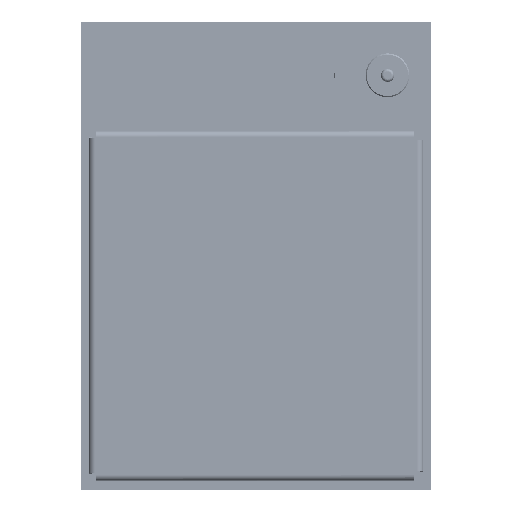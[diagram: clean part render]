
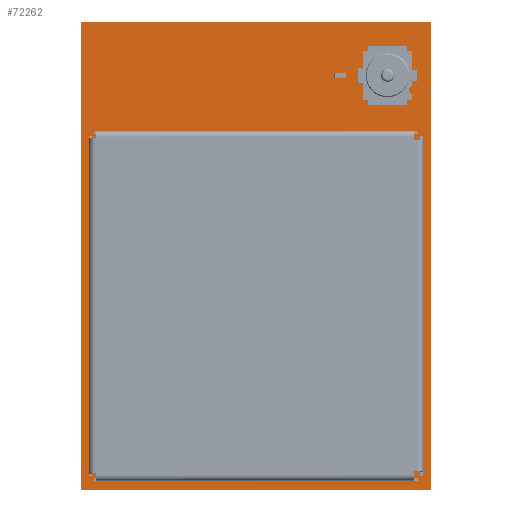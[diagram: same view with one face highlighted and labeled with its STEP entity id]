
A CAD part, top view. The second image highlights one B-rep face of the part: STEP entity #72262.
In plain terms, the highlighted planar face has unit normal (0, 0, 1).
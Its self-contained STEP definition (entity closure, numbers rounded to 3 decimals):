
#1716 = EDGE_CURVE ( 'NONE', #182502, #265360, #231731, .T. ) ;
#6019 = EDGE_CURVE ( 'NONE', #265360, #503978, #92823, .T. ) ;
#26682 = EDGE_CURVE ( 'NONE', #320127, #182502, #164293, .T. ) ;
#67311 = CARTESIAN_POINT ( 'NONE',  ( -6., 8., 0. ) ) ;
#72262 = ADVANCED_FACE ( 'NONE', ( #401343 ), #236676, .F. ) ;
#85750 = VECTOR ( 'NONE', #232952, 1000. ) ;
#86218 = ORIENTED_EDGE ( 'NONE', *, *, #6019, .F. ) ;
#92823 = LINE ( 'NONE', #252175, #248821 ) ;
#93017 = CARTESIAN_POINT ( 'NONE',  ( -6., 8., 0. ) ) ;
#99158 = ORIENTED_EDGE ( 'NONE', *, *, #182029, .F. ) ;
#155210 = AXIS2_PLACEMENT_3D ( 'NONE', #205197, #215448, #207726 ) ;
#164293 = LINE ( 'NONE', #198059, #454511 ) ;
#171808 = ORIENTED_EDGE ( 'NONE', *, *, #1716, .F. ) ;
#182029 = EDGE_CURVE ( 'NONE', #503978, #320127, #512741, .T. ) ;
#182502 = VERTEX_POINT ( 'NONE', #93017 ) ;
#198059 = CARTESIAN_POINT ( 'NONE',  ( -6., -8., 0. ) ) ;
#205197 = CARTESIAN_POINT ( 'NONE',  ( 0., 0., 0. ) ) ;
#207726 = DIRECTION ( 'NONE',  ( 0., -1., 0. ) ) ;
#215448 = DIRECTION ( 'NONE',  ( 0., 0., -1. ) ) ;
#231731 = LINE ( 'NONE', #67311, #488154 ) ;
#232952 = DIRECTION ( 'NONE',  ( -1., 0., 0. ) ) ;
#236676 = PLANE ( 'NONE',  #155210 ) ;
#240918 = CARTESIAN_POINT ( 'NONE',  ( 6., 8., 0. ) ) ;
#248821 = VECTOR ( 'NONE', #286241, 1000. ) ;
#252175 = CARTESIAN_POINT ( 'NONE',  ( 6., 8., 0. ) ) ;
#265360 = VERTEX_POINT ( 'NONE', #240918 ) ;
#286241 = DIRECTION ( 'NONE',  ( 0., -1., 0. ) ) ;
#306224 = CARTESIAN_POINT ( 'NONE',  ( 6., -8., 0. ) ) ;
#320127 = VERTEX_POINT ( 'NONE', #473756 ) ;
#344812 = CARTESIAN_POINT ( 'NONE',  ( 6., -8., 0. ) ) ;
#368314 = EDGE_LOOP ( 'NONE', ( #99158, #86218, #171808, #452705 ) ) ;
#391267 = DIRECTION ( 'NONE',  ( 1., 0., 0. ) ) ;
#401343 = FACE_OUTER_BOUND ( 'NONE', #368314, .T. ) ;
#404532 = DIRECTION ( 'NONE',  ( 0., 1., 0. ) ) ;
#452705 = ORIENTED_EDGE ( 'NONE', *, *, #26682, .F. ) ;
#454511 = VECTOR ( 'NONE', #404532, 1000. ) ;
#473756 = CARTESIAN_POINT ( 'NONE',  ( -6., -8., 0. ) ) ;
#488154 = VECTOR ( 'NONE', #391267, 1000. ) ;
#503978 = VERTEX_POINT ( 'NONE', #344812 ) ;
#512741 = LINE ( 'NONE', #306224, #85750 ) ;
